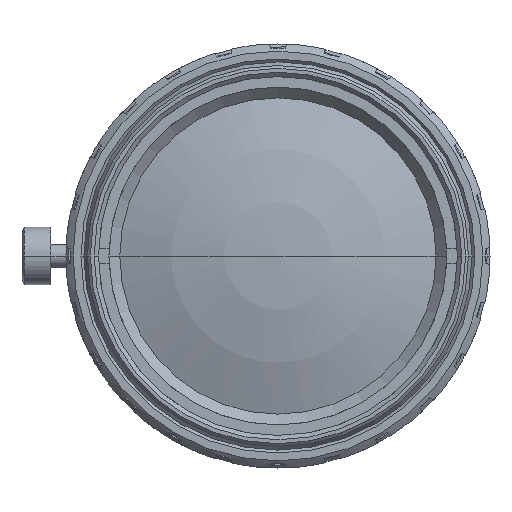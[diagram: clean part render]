
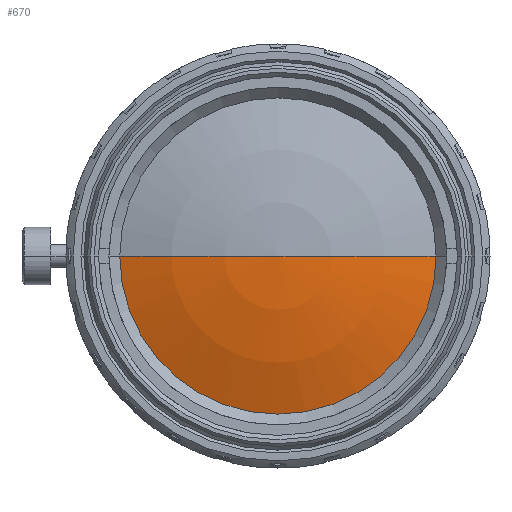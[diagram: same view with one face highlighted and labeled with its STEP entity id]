
A CAD part, left-side view. The second image highlights one B-rep face of the part: STEP entity #670.
In plain terms, the highlighted toroidal (fillet/blend) face has major radius 0.018 mm and minor radius 32.635 mm.
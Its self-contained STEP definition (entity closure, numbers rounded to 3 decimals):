
#120=CARTESIAN_POINT('',(-27.668,-11.,0.));
#130=VERTEX_POINT('',#120);
#290=CARTESIAN_POINT('',(-27.668,11.,0.));
#300=VERTEX_POINT('',#290);
#330=CARTESIAN_POINT('',(-27.668,0.,0.));
#340=DIRECTION('',(1.,0.,0.));
#350=DIRECTION('',(0.,1.,0.));
#360=AXIS2_PLACEMENT_3D('',#330,#340,#350);
#370=CIRCLE('',#360,11.);
#380=EDGE_CURVE('',#130,#300,#370,.T.);
#430=CARTESIAN_POINT('',(3.064,0.,0.));
#440=DIRECTION('',(1.,0.,0.));
#450=DIRECTION('',(0.,1.,0.));
#460=AXIS2_PLACEMENT_3D('',#430,#440,#450);
#470=DEGENERATE_TOROIDAL_SURFACE('',#460,0.017,
32.635,.T.);
#480=CARTESIAN_POINT('',(3.064,0.017,0.));
#490=DIRECTION('',(0.,0.,1.));
#500=DIRECTION('',(1.,0.,0.));
#510=AXIS2_PLACEMENT_3D('',#480,#490,#500);
#520=CIRCLE('',#510,32.635);
#530=CARTESIAN_POINT('',(-29.571,0.,0.));
#540=VERTEX_POINT('',#530);
#550=EDGE_CURVE('',#300,#540,#520,.T.);
#560=ORIENTED_EDGE('',*,*,#550,.F.);
#570=CARTESIAN_POINT('',(3.064,-0.017,0.));
#580=DIRECTION('',(0.,0.,-1.));
#590=DIRECTION('',(1.,0.,0.));
#600=AXIS2_PLACEMENT_3D('',#570,#580,#590);
#610=CIRCLE('',#600,32.635);
#620=EDGE_CURVE('',#130,#540,#610,.T.);
#630=ORIENTED_EDGE('',*,*,#620,.T.);
#640=ORIENTED_EDGE('',*,*,#380,.F.);
#650=EDGE_LOOP('',(#640,#630,#560));
#660=FACE_OUTER_BOUND('',#650,.T.);
#670=ADVANCED_FACE('',(#660),#470,.T.);
